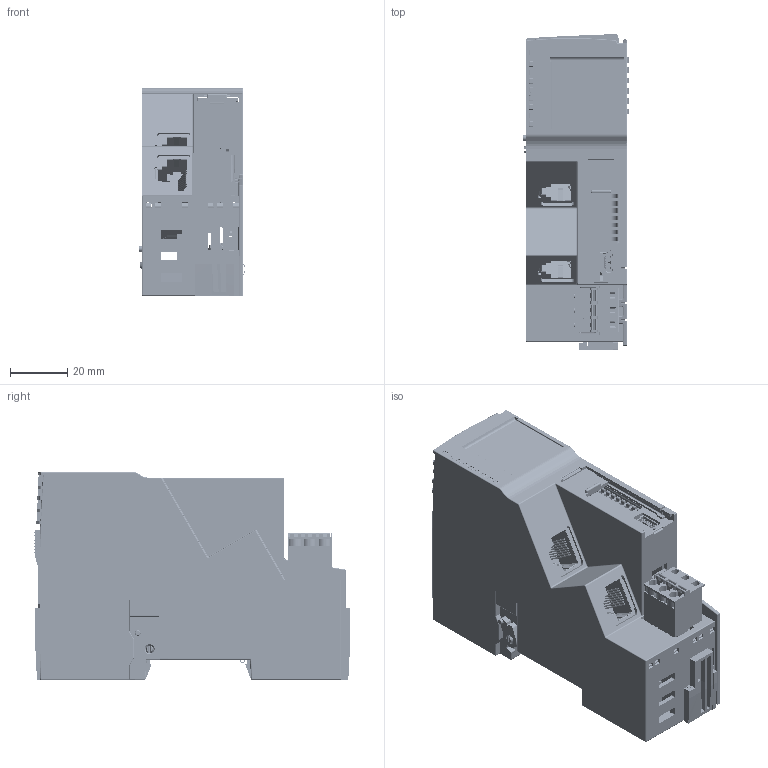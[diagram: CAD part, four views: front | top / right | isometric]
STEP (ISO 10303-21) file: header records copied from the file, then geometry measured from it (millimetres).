
FILE_DESCRIPTION (( 'STEP AP214' ), '1' );
FILE_NAME ('ETH_DIP.STEP', '2019-07-17T09:40:20', ( '' ), ( '' ), 'SwSTEP 2.0', 'SolidWorks 2019', '' );
FILE_SCHEMA (( 'AUTOMOTIVE_DESIGN' ));
Length unit declared in the file: millimetre
Products named in the file (76): Kopf_PH_3; Kopie von Insulator^7499111000A (rev1); Schieberhebel_20; Messer_Tulpe; Kodierer_2; Kodierer_1_Kodierer_1; pxc_1954922_04_CCA-2-5-3-G-5-08-P26THR_3D; Schienenkralle_entspannt_1; Beschriftungsstreifen_Buskoppler_Beschriftungsstreifen_Buskoppler; DIP switch 10; 7499111000A (rev1); Links_geschlossen_14_21_optim_Zchng; Tulpe_Power_L飆_21_optimiert; Oberteil_ETH_35_26_Oberteil_Buskoppler ETH USB & DIL; Links_geschlossen_14_21_optim_Zchng_Links_geschlossen_14_21; X003-1-s-0p V00-00; Lichtf黨rung_24_Lichtf乭rung_24; Unterteil_35_25; Vorderteil_ETH_35_Oberteil_Buskoppler_ETH_USB&DIL; Rechts_geschlossen_14_21_optim_Zchng; Messer_L鰐_21_Messer_L攖_21; Messer_L飆_21; 5000751517; Schiebefenster_21_Schiebefenster_21; Tulpe_Power_Löt_21_optimiert_Tulpe_Power_L”t_21; Schienenkralle_entspannt_1_Schienenkralle_entspannt_1; Verriegelung_oben_1; Basismodul_14_Power+Koppler_Power und Koppler; Geh_Sockel14_21_Lichtgrau; Schieber_20_Schieber_20; Unterteil_35_25_Basaltgrau_Unterteil_35_25; Schieber_20; Geh_Sockel14_21_Lichtgrau_Lichtgrau_Geh_Sockel14_21; Schirmkontakt_5; Kodierer_1; Schieberhebel_20_Schieberhebel_20; Kopie von Shielding^7499111000A (rev1); Abdeckung_Sockel_22_Basaltgrau_optimiert; Schirmkontakt_5_Schirmkontakt_5; Rechts_geschlossen_14_21_optim_Zchng_Rechts_geschlossen_14_21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
Assembly tree (50 placements, depth 4):
  Kopf_PH_3
  Schieberhebel_20
  Kodierer_2
  Schienenkralle_entspannt_1
  Links_geschlossen_14_21_optim_Zchng
Bounding box: 37.17 x 110.03 x 72.5 mm (x, y, z)
Volume: 67360.2 mm3; surface area: 102413.6 mm2
Topology: 48 solids, 48 shells, 9986 faces, 28473 edges, 18450 vertices
Faces by surface type: plane 6047, cylinder 3286, bspline 329, torus 160, cone 99, sphere 65
Entity records: 282595 total; most frequent: CARTESIAN_POINT 62273, ORIENTED_EDGE 45600, DIRECTION 41593, EDGE_CURVE 22800, VECTOR 16707, LINE 16707, VERTEX_POINT 14837, AXIS2_PLACEMENT_3D 12443
